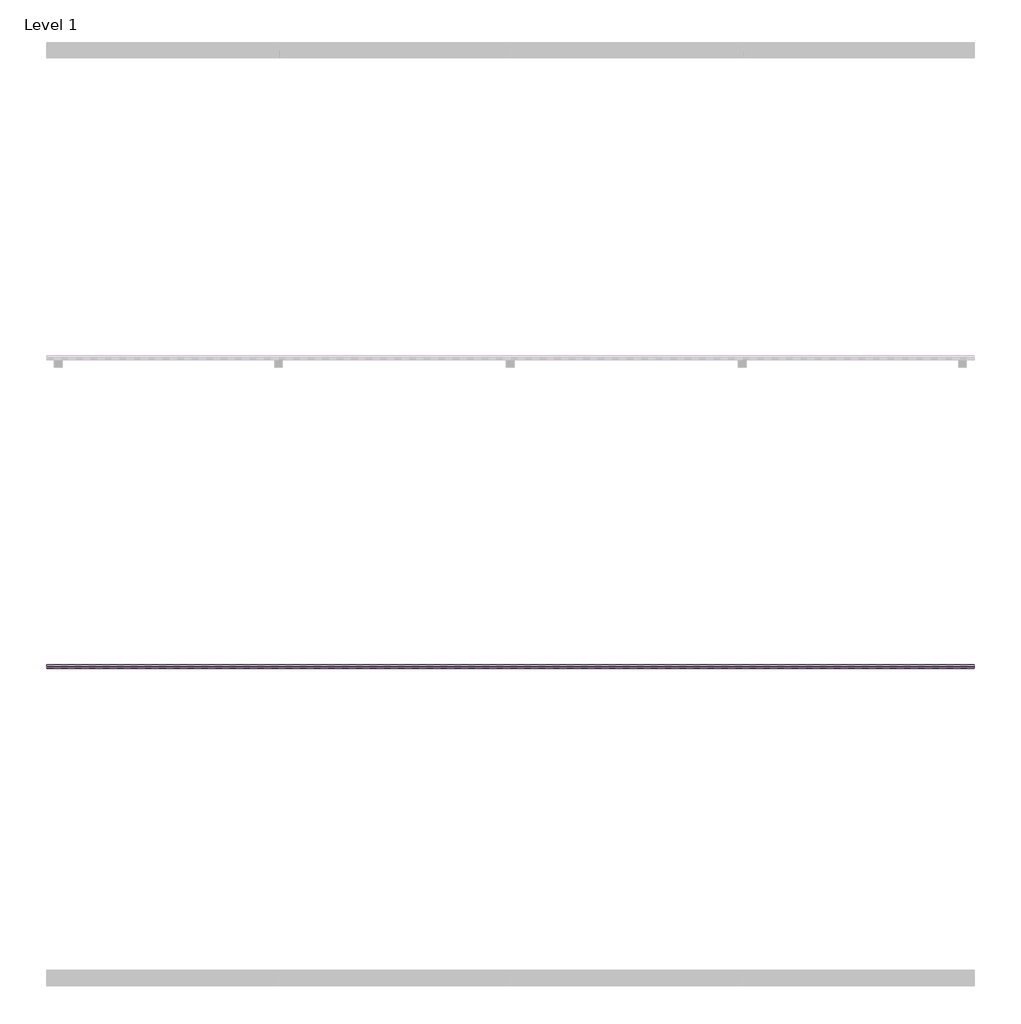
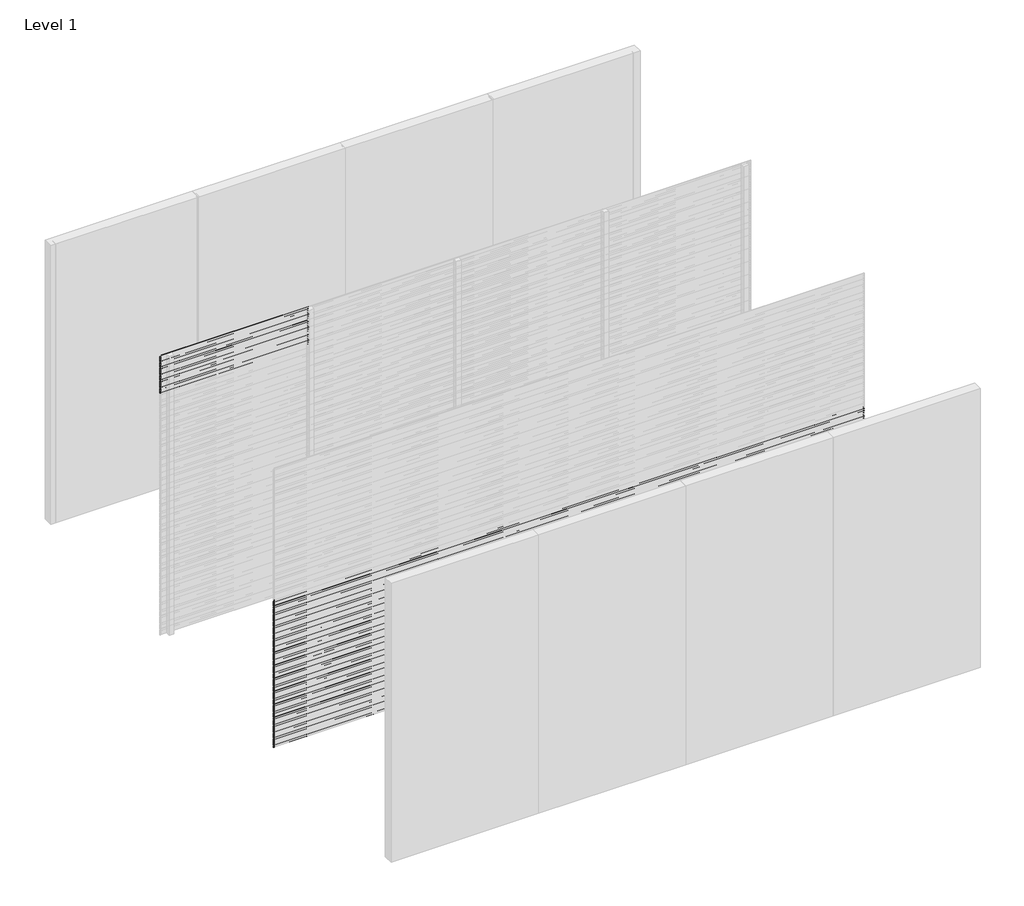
# One storey, part 10 of 31: 99 proxies.
"""IFC4 building model written with IfcOpenShell, lengths in millimetres."""

from ifc_helpers import new_model, si_unit, frame, origin, place, context, project, spatial, polyline, outline, extrude, element, save

model = new_model("IFC4")

# Units and contexts
model_context = context("Model", 3, world=origin())
ifc_project = project(units=[si_unit("LENGTHUNIT", "METRE", prefix="MILLI")], contexts=[model_context])

# Site, building, storey
site = spatial("IfcSite", under=ifc_project)
building = spatial("IfcBuilding", under=site)
storey = spatial("IfcBuildingStorey", under=building, Name="Level 1", Elevation=0.0)

# Proxies
placement = place(None, origin())
element("IfcBuildingElementProxy", 1, Name="Wall Sweeps", at=placement, inside=storey, context=model_context, shape_type="SweptSolid", body=[
    extrude(outline(polyline([(-11995.0, 3000.0), (-11995.0, 2988.942893), (-11976.0, 2973.0), (-11976.0, 2960.0), (-11997.0, 2977.6210923), (-11997.0, 3000.0), (-11995.0, 3000.0)])), frame((0.0, 0.0, 0.0), z_axis=(1.0, 0.0, 0.0), x_axis=(0.0, 1.0, 0.0)), (0.0, 0.0, 1.0), 1500.0),
])
element("IfcBuildingElementProxy", 2, Name="Wall Sweeps", at=placement, inside=storey, context=model_context, shape_type="SweptSolid", body=[
    extrude(outline(polyline([(-11995.0, 2980.0), (-11995.0, 2968.942893), (-11976.0, 2953.0), (-11976.0, 2940.0), (-11997.0, 2957.6210923), (-11997.0, 2980.0), (-11995.0, 2980.0)])), frame((0.0, 0.0, 0.0), z_axis=(1.0, 0.0, 0.0), x_axis=(0.0, 1.0, 0.0)), (0.0, 0.0, 1.0), 1500.0),
])
element("IfcBuildingElementProxy", 3, Name="Wall Sweeps", at=placement, inside=storey, context=model_context, shape_type="SweptSolid", body=[
    extrude(outline(polyline([(-11995.0, 2960.0), (-11995.0, 2948.942893), (-11976.0, 2933.0), (-11976.0, 2920.0), (-11997.0, 2937.6210923), (-11997.0, 2960.0), (-11995.0, 2960.0)])), frame((0.0, 0.0, 0.0), z_axis=(1.0, 0.0, 0.0), x_axis=(0.0, 1.0, 0.0)), (0.0, 0.0, 1.0), 1500.0),
])
element("IfcBuildingElementProxy", 4, Name="Wall Sweeps", at=placement, inside=storey, context=model_context, shape_type="SweptSolid", body=[
    extrude(outline(polyline([(-11995.0, 2940.0), (-11995.0, 2928.942893), (-11976.0, 2913.0), (-11976.0, 2900.0), (-11997.0, 2917.6210923), (-11997.0, 2940.0), (-11995.0, 2940.0)])), frame((0.0, 0.0, 0.0), z_axis=(1.0, 0.0, 0.0), x_axis=(0.0, 1.0, 0.0)), (0.0, 0.0, 1.0), 1500.0),
])
element("IfcBuildingElementProxy", 5, Name="Wall Sweeps", at=placement, inside=storey, context=model_context, shape_type="SweptSolid", body=[
    extrude(outline(polyline([(-11995.0, 2920.0), (-11995.0, 2908.942893), (-11976.0, 2893.0), (-11976.0, 2880.0), (-11997.0, 2897.6210923), (-11997.0, 2920.0), (-11995.0, 2920.0)])), frame((0.0, 0.0, 0.0), z_axis=(1.0, 0.0, 0.0), x_axis=(0.0, 1.0, 0.0)), (0.0, 0.0, 1.0), 1500.0),
])
element("IfcBuildingElementProxy", 6, Name="Wall Sweeps", at=placement, inside=storey, context=model_context, shape_type="SweptSolid", body=[
    extrude(outline(polyline([(-11995.0, 2900.0), (-11995.0, 2888.942893), (-11976.0, 2873.0), (-11976.0, 2860.0), (-11997.0, 2877.6210923), (-11997.0, 2900.0), (-11995.0, 2900.0)])), frame((0.0, 0.0, 0.0), z_axis=(1.0, 0.0, 0.0), x_axis=(0.0, 1.0, 0.0)), (0.0, 0.0, 1.0), 1500.0),
])
element("IfcBuildingElementProxy", 7, Name="Wall Sweeps", at=placement, inside=storey, context=model_context, shape_type="SweptSolid", body=[
    extrude(outline(polyline([(-11995.0, 2880.0), (-11995.0, 2868.942893), (-11976.0, 2853.0), (-11976.0, 2840.0), (-11997.0, 2857.6210923), (-11997.0, 2880.0), (-11995.0, 2880.0)])), frame((0.0, 0.0, 0.0), z_axis=(1.0, 0.0, 0.0), x_axis=(0.0, 1.0, 0.0)), (0.0, 0.0, 1.0), 1500.0),
])
element("IfcBuildingElementProxy", 8, Name="Wall Sweeps", at=placement, inside=storey, context=model_context, shape_type="SweptSolid", body=[
    extrude(outline(polyline([(-11995.0, 2860.0), (-11995.0, 2848.942893), (-11976.0, 2833.0), (-11976.0, 2820.0), (-11997.0, 2837.6210923), (-11997.0, 2860.0), (-11995.0, 2860.0)])), frame((0.0, 0.0, 0.0), z_axis=(1.0, 0.0, 0.0), x_axis=(0.0, 1.0, 0.0)), (0.0, 0.0, 1.0), 1500.0),
])
element("IfcBuildingElementProxy", 9, Name="Wall Sweeps", at=placement, inside=storey, context=model_context, shape_type="SweptSolid", body=[
    extrude(outline(polyline([(-11995.0, 2840.0), (-11995.0, 2828.942893), (-11976.0, 2813.0), (-11976.0, 2800.0), (-11997.0, 2817.6210923), (-11997.0, 2840.0), (-11995.0, 2840.0)])), frame((0.0, 0.0, 0.0), z_axis=(1.0, 0.0, 0.0), x_axis=(0.0, 1.0, 0.0)), (0.0, 0.0, 1.0), 1500.0),
])
element("IfcBuildingElementProxy", 10, Name="Wall Sweeps", at=placement, inside=storey, context=model_context, shape_type="SweptSolid", body=[
    extrude(outline(polyline([(-11995.0, 2820.0), (-11995.0, 2808.942893), (-11976.0, 2793.0), (-11976.0, 2780.0), (-11997.0, 2797.6210923), (-11997.0, 2820.0), (-11995.0, 2820.0)])), frame((0.0, 0.0, 0.0), z_axis=(1.0, 0.0, 0.0), x_axis=(0.0, 1.0, 0.0)), (0.0, 0.0, 1.0), 1500.0),
])
element("IfcBuildingElementProxy", 11, Name="Wall Sweeps", at=placement, inside=storey, context=model_context, shape_type="SweptSolid", body=[
    extrude(outline(polyline([(-11995.0, 2800.0), (-11995.0, 2788.942893), (-11976.0, 2773.0), (-11976.0, 2760.0), (-11997.0, 2777.6210923), (-11997.0, 2800.0), (-11995.0, 2800.0)])), frame((0.0, 0.0, 0.0), z_axis=(1.0, 0.0, 0.0), x_axis=(0.0, 1.0, 0.0)), (0.0, 0.0, 1.0), 1500.0),
])
element("IfcBuildingElementProxy", 12, Name="Wall Sweeps", at=placement, inside=storey, context=model_context, shape_type="SweptSolid", body=[
    extrude(outline(polyline([(-11995.0, 2780.0), (-11995.0, 2768.942893), (-11976.0, 2753.0), (-11976.0, 2740.0), (-11997.0, 2757.6210923), (-11997.0, 2780.0), (-11995.0, 2780.0)])), frame((0.0, 0.0, 0.0), z_axis=(1.0, 0.0, 0.0), x_axis=(0.0, 1.0, 0.0)), (0.0, 0.0, 1.0), 1500.0),
])
element("IfcBuildingElementProxy", 13, Name="Wall Sweeps", at=placement, inside=storey, context=model_context, shape_type="SweptSolid", body=[
    extrude(outline(polyline([(-11995.0, 2760.0), (-11995.0, 2748.942893), (-11976.0, 2733.0), (-11976.0, 2720.0), (-11997.0, 2737.6210923), (-11997.0, 2760.0), (-11995.0, 2760.0)])), frame((0.0, 0.0, 0.0), z_axis=(1.0, 0.0, 0.0), x_axis=(0.0, 1.0, 0.0)), (0.0, 0.0, 1.0), 1500.0),
])
element("IfcBuildingElementProxy", 14, Name="Wall Sweeps", at=placement, inside=storey, context=model_context, shape_type="SweptSolid", body=[
    extrude(outline(polyline([(-11995.0, 2740.0), (-11995.0, 2728.942893), (-11976.0, 2713.0), (-11976.0, 2700.0), (-11997.0, 2717.6210923), (-11997.0, 2740.0), (-11995.0, 2740.0)])), frame((0.0, 0.0, 0.0), z_axis=(1.0, 0.0, 0.0), x_axis=(0.0, 1.0, 0.0)), (0.0, 0.0, 1.0), 1500.0),
])
element("IfcBuildingElementProxy", 15, Name="Wall Sweeps", at=placement, inside=storey, context=model_context, shape_type="SweptSolid", body=[
    extrude(outline(polyline([(-11995.0, 2720.0), (-11995.0, 2708.942893), (-11976.0, 2693.0), (-11976.0, 2680.0), (-11997.0, 2697.6210923), (-11997.0, 2720.0), (-11995.0, 2720.0)])), frame((0.0, 0.0, 0.0), z_axis=(1.0, 0.0, 0.0), x_axis=(0.0, 1.0, 0.0)), (0.0, 0.0, 1.0), 1500.0),
])
element("IfcBuildingElementProxy", 16, Name="Wall Sweeps", at=placement, inside=storey, context=model_context, shape_type="SweptSolid", body=[
    extrude(outline(polyline([(-11995.0, 2700.0), (-11995.0, 2688.942893), (-11976.0, 2673.0), (-11976.0, 2660.0), (-11997.0, 2677.6210923), (-11997.0, 2700.0), (-11995.0, 2700.0)])), frame((0.0, 0.0, 0.0), z_axis=(1.0, 0.0, 0.0), x_axis=(0.0, 1.0, 0.0)), (0.0, 0.0, 1.0), 1500.0),
])
element("IfcBuildingElementProxy", 17, Name="Wall Sweeps", at=placement, inside=storey, context=model_context, shape_type="SweptSolid", body=[
    extrude(outline(polyline([(-11995.0, 2680.0), (-11995.0, 2668.942893), (-11976.0, 2653.0), (-11976.0, 2640.0), (-11997.0, 2657.6210923), (-11997.0, 2680.0), (-11995.0, 2680.0)])), frame((0.0, 0.0, 0.0), z_axis=(1.0, 0.0, 0.0), x_axis=(0.0, 1.0, 0.0)), (0.0, 0.0, 1.0), 1500.0),
])
element("IfcBuildingElementProxy", 18, Name="Wall Sweeps", at=placement, inside=storey, context=model_context, shape_type="SweptSolid", body=[
    extrude(outline(polyline([(-11995.0, 2660.0), (-11995.0, 2648.942893), (-11976.0, 2633.0), (-11976.0, 2620.0), (-11997.0, 2637.6210923), (-11997.0, 2660.0), (-11995.0, 2660.0)])), frame((0.0, 0.0, 0.0), z_axis=(1.0, 0.0, 0.0), x_axis=(0.0, 1.0, 0.0)), (0.0, 0.0, 1.0), 1500.0),
])
element("IfcBuildingElementProxy", 19, Name="Wall Sweeps", at=placement, inside=storey, context=model_context, shape_type="SweptSolid", body=[
    extrude(outline(polyline([(-11995.0, 2640.0), (-11995.0, 2628.942893), (-11976.0, 2613.0), (-11976.0, 2600.0), (-11997.0, 2617.6210923), (-11997.0, 2640.0), (-11995.0, 2640.0)])), frame((0.0, 0.0, 0.0), z_axis=(1.0, 0.0, 0.0), x_axis=(0.0, 1.0, 0.0)), (0.0, 0.0, 1.0), 1500.0),
])
element("IfcBuildingElementProxy", 20, Name="Wall Sweeps", at=placement, inside=storey, context=model_context, shape_type="SweptSolid", body=[
    extrude(outline(polyline([(-11995.0, 2620.0), (-11995.0, 2608.942893), (-11976.0, 2593.0), (-11976.0, 2580.0), (-11997.0, 2597.6210923), (-11997.0, 2620.0), (-11995.0, 2620.0)])), frame((0.0, 0.0, 0.0), z_axis=(1.0, 0.0, 0.0), x_axis=(0.0, 1.0, 0.0)), (0.0, 0.0, 1.0), 1500.0),
])
element("IfcBuildingElementProxy", 21, Name="Wall Sweeps", at=placement, inside=storey, context=model_context, shape_type="SweptSolid", body=[
    extrude(outline(polyline([(-13995.0, 1580.0), (-13995.0, 1568.942893), (-13976.0, 1553.0), (-13976.0, 1540.0), (-13997.0, 1557.6210923), (-13997.0, 1580.0), (-13995.0, 1580.0)])), frame((0.0, 0.0, 0.0), z_axis=(1.0, 0.0, 0.0), x_axis=(0.0, 1.0, 0.0)), (0.0, 0.0, 1.0), 6000.0),
])
element("IfcBuildingElementProxy", 22, Name="Wall Sweeps", at=placement, inside=storey, context=model_context, shape_type="SweptSolid", body=[
    extrude(outline(polyline([(-13995.0, 1560.0), (-13995.0, 1548.942893), (-13976.0, 1533.0), (-13976.0, 1520.0), (-13997.0, 1537.6210923), (-13997.0, 1560.0), (-13995.0, 1560.0)])), frame((0.0, 0.0, 0.0), z_axis=(1.0, 0.0, 0.0), x_axis=(0.0, 1.0, 0.0)), (0.0, 0.0, 1.0), 6000.0),
])
element("IfcBuildingElementProxy", 23, Name="Wall Sweeps", at=placement, inside=storey, context=model_context, shape_type="SweptSolid", body=[
    extrude(outline(polyline([(-13995.0, 1540.0), (-13995.0, 1528.942893), (-13976.0, 1513.0), (-13976.0, 1500.0), (-13997.0, 1517.6210923), (-13997.0, 1540.0), (-13995.0, 1540.0)])), frame((0.0, 0.0, 0.0), z_axis=(1.0, 0.0, 0.0), x_axis=(0.0, 1.0, 0.0)), (0.0, 0.0, 1.0), 6000.0),
])
element("IfcBuildingElementProxy", 24, Name="Wall Sweeps", at=placement, inside=storey, context=model_context, shape_type="SweptSolid", body=[
    extrude(outline(polyline([(-13995.0, 1520.0), (-13995.0, 1508.942893), (-13976.0, 1493.0), (-13976.0, 1480.0), (-13997.0, 1497.6210923), (-13997.0, 1520.0), (-13995.0, 1520.0)])), frame((0.0, 0.0, 0.0), z_axis=(1.0, 0.0, 0.0), x_axis=(0.0, 1.0, 0.0)), (0.0, 0.0, 1.0), 6000.0),
])
element("IfcBuildingElementProxy", 25, Name="Wall Sweeps", at=placement, inside=storey, context=model_context, shape_type="SweptSolid", body=[
    extrude(outline(polyline([(-13995.0, 1500.0), (-13995.0, 1488.942893), (-13976.0, 1473.0), (-13976.0, 1460.0), (-13997.0, 1477.6210923), (-13997.0, 1500.0), (-13995.0, 1500.0)])), frame((0.0, 0.0, 0.0), z_axis=(1.0, 0.0, 0.0), x_axis=(0.0, 1.0, 0.0)), (0.0, 0.0, 1.0), 6000.0),
])
element("IfcBuildingElementProxy", 26, Name="Wall Sweeps", at=placement, inside=storey, context=model_context, shape_type="SweptSolid", body=[
    extrude(outline(polyline([(-13995.0, 1480.0), (-13995.0, 1468.942893), (-13976.0, 1453.0), (-13976.0, 1440.0), (-13997.0, 1457.6210923), (-13997.0, 1480.0), (-13995.0, 1480.0)])), frame((0.0, 0.0, 0.0), z_axis=(1.0, 0.0, 0.0), x_axis=(0.0, 1.0, 0.0)), (0.0, 0.0, 1.0), 6000.0),
])
element("IfcBuildingElementProxy", 27, Name="Wall Sweeps", at=placement, inside=storey, context=model_context, shape_type="SweptSolid", body=[
    extrude(outline(polyline([(-13995.0, 1460.0), (-13995.0, 1448.942893), (-13976.0, 1433.0), (-13976.0, 1420.0), (-13997.0, 1437.6210923), (-13997.0, 1460.0), (-13995.0, 1460.0)])), frame((0.0, 0.0, 0.0), z_axis=(1.0, 0.0, 0.0), x_axis=(0.0, 1.0, 0.0)), (0.0, 0.0, 1.0), 6000.0),
])
element("IfcBuildingElementProxy", 28, Name="Wall Sweeps", at=placement, inside=storey, context=model_context, shape_type="SweptSolid", body=[
    extrude(outline(polyline([(-13995.0, 1440.0), (-13995.0, 1428.942893), (-13976.0, 1413.0), (-13976.0, 1400.0), (-13997.0, 1417.6210923), (-13997.0, 1440.0), (-13995.0, 1440.0)])), frame((0.0, 0.0, 0.0), z_axis=(1.0, 0.0, 0.0), x_axis=(0.0, 1.0, 0.0)), (0.0, 0.0, 1.0), 6000.0),
])
element("IfcBuildingElementProxy", 29, Name="Wall Sweeps", at=placement, inside=storey, context=model_context, shape_type="SweptSolid", body=[
    extrude(outline(polyline([(-13995.0, 1420.0), (-13995.0, 1408.942893), (-13976.0, 1393.0), (-13976.0, 1380.0), (-13997.0, 1397.6210923), (-13997.0, 1420.0), (-13995.0, 1420.0)])), frame((0.0, 0.0, 0.0), z_axis=(1.0, 0.0, 0.0), x_axis=(0.0, 1.0, 0.0)), (0.0, 0.0, 1.0), 6000.0),
])
element("IfcBuildingElementProxy", 30, Name="Wall Sweeps", at=placement, inside=storey, context=model_context, shape_type="SweptSolid", body=[
    extrude(outline(polyline([(-13995.0, 1400.0), (-13995.0, 1388.942893), (-13976.0, 1373.0), (-13976.0, 1360.0), (-13997.0, 1377.6210923), (-13997.0, 1400.0), (-13995.0, 1400.0)])), frame((0.0, 0.0, 0.0), z_axis=(1.0, 0.0, 0.0), x_axis=(0.0, 1.0, 0.0)), (0.0, 0.0, 1.0), 6000.0),
])
element("IfcBuildingElementProxy", 31, Name="Wall Sweeps", at=placement, inside=storey, context=model_context, shape_type="SweptSolid", body=[
    extrude(outline(polyline([(-13995.0, 1380.0), (-13995.0, 1368.942893), (-13976.0, 1353.0), (-13976.0, 1340.0), (-13997.0, 1357.6210923), (-13997.0, 1380.0), (-13995.0, 1380.0)])), frame((0.0, 0.0, 0.0), z_axis=(1.0, 0.0, 0.0), x_axis=(0.0, 1.0, 0.0)), (0.0, 0.0, 1.0), 6000.0),
])
element("IfcBuildingElementProxy", 32, Name="Wall Sweeps", at=placement, inside=storey, context=model_context, shape_type="SweptSolid", body=[
    extrude(outline(polyline([(-13995.0, 1360.0), (-13995.0, 1348.942893), (-13976.0, 1333.0), (-13976.0, 1320.0), (-13997.0, 1337.6210923), (-13997.0, 1360.0), (-13995.0, 1360.0)])), frame((0.0, 0.0, 0.0), z_axis=(1.0, 0.0, 0.0), x_axis=(0.0, 1.0, 0.0)), (0.0, 0.0, 1.0), 6000.0),
])
element("IfcBuildingElementProxy", 33, Name="Wall Sweeps", at=placement, inside=storey, context=model_context, shape_type="SweptSolid", body=[
    extrude(outline(polyline([(-13995.0, 1340.0), (-13995.0, 1328.942893), (-13976.0, 1313.0), (-13976.0, 1300.0), (-13997.0, 1317.6210923), (-13997.0, 1340.0), (-13995.0, 1340.0)])), frame((0.0, 0.0, 0.0), z_axis=(1.0, 0.0, 0.0), x_axis=(0.0, 1.0, 0.0)), (0.0, 0.0, 1.0), 6000.0),
])
element("IfcBuildingElementProxy", 34, Name="Wall Sweeps", at=placement, inside=storey, context=model_context, shape_type="SweptSolid", body=[
    extrude(outline(polyline([(-13995.0, 1320.0), (-13995.0, 1308.942893), (-13976.0, 1293.0), (-13976.0, 1280.0), (-13997.0, 1297.6210923), (-13997.0, 1320.0), (-13995.0, 1320.0)])), frame((0.0, 0.0, 0.0), z_axis=(1.0, 0.0, 0.0), x_axis=(0.0, 1.0, 0.0)), (0.0, 0.0, 1.0), 6000.0),
])
element("IfcBuildingElementProxy", 35, Name="Wall Sweeps", at=placement, inside=storey, context=model_context, shape_type="SweptSolid", body=[
    extrude(outline(polyline([(-13995.0, 1300.0), (-13995.0, 1288.942893), (-13976.0, 1273.0), (-13976.0, 1260.0), (-13997.0, 1277.6210923), (-13997.0, 1300.0), (-13995.0, 1300.0)])), frame((0.0, 0.0, 0.0), z_axis=(1.0, 0.0, 0.0), x_axis=(0.0, 1.0, 0.0)), (0.0, 0.0, 1.0), 6000.0),
])
element("IfcBuildingElementProxy", 36, Name="Wall Sweeps", at=placement, inside=storey, context=model_context, shape_type="SweptSolid", body=[
    extrude(outline(polyline([(-13995.0, 1280.0), (-13995.0, 1268.942893), (-13976.0, 1253.0), (-13976.0, 1240.0), (-13997.0, 1257.6210923), (-13997.0, 1280.0), (-13995.0, 1280.0)])), frame((0.0, 0.0, 0.0), z_axis=(1.0, 0.0, 0.0), x_axis=(0.0, 1.0, 0.0)), (0.0, 0.0, 1.0), 6000.0),
])
element("IfcBuildingElementProxy", 37, Name="Wall Sweeps", at=placement, inside=storey, context=model_context, shape_type="SweptSolid", body=[
    extrude(outline(polyline([(-13995.0, 1260.0), (-13995.0, 1248.942893), (-13976.0, 1233.0), (-13976.0, 1220.0), (-13997.0, 1237.6210923), (-13997.0, 1260.0), (-13995.0, 1260.0)])), frame((0.0, 0.0, 0.0), z_axis=(1.0, 0.0, 0.0), x_axis=(0.0, 1.0, 0.0)), (0.0, 0.0, 1.0), 6000.0),
])
element("IfcBuildingElementProxy", 38, Name="Wall Sweeps", at=placement, inside=storey, context=model_context, shape_type="SweptSolid", body=[
    extrude(outline(polyline([(-13995.0, 1240.0), (-13995.0, 1228.942893), (-13976.0, 1213.0), (-13976.0, 1200.0), (-13997.0, 1217.6210923), (-13997.0, 1240.0), (-13995.0, 1240.0)])), frame((0.0, 0.0, 0.0), z_axis=(1.0, 0.0, 0.0), x_axis=(0.0, 1.0, 0.0)), (0.0, 0.0, 1.0), 6000.0),
])
element("IfcBuildingElementProxy", 39, Name="Wall Sweeps", at=placement, inside=storey, context=model_context, shape_type="SweptSolid", body=[
    extrude(outline(polyline([(-13995.0, 1220.0), (-13995.0, 1208.942893), (-13976.0, 1193.0), (-13976.0, 1180.0), (-13997.0, 1197.6210923), (-13997.0, 1220.0), (-13995.0, 1220.0)])), frame((0.0, 0.0, 0.0), z_axis=(1.0, 0.0, 0.0), x_axis=(0.0, 1.0, 0.0)), (0.0, 0.0, 1.0), 6000.0),
])
element("IfcBuildingElementProxy", 40, Name="Wall Sweeps", at=placement, inside=storey, context=model_context, shape_type="SweptSolid", body=[
    extrude(outline(polyline([(-13995.0, 1200.0), (-13995.0, 1188.942893), (-13976.0, 1173.0), (-13976.0, 1160.0), (-13997.0, 1177.6210923), (-13997.0, 1200.0), (-13995.0, 1200.0)])), frame((0.0, 0.0, 0.0), z_axis=(1.0, 0.0, 0.0), x_axis=(0.0, 1.0, 0.0)), (0.0, 0.0, 1.0), 6000.0),
])
element("IfcBuildingElementProxy", 41, Name="Wall Sweeps", at=placement, inside=storey, context=model_context, shape_type="SweptSolid", body=[
    extrude(outline(polyline([(-13995.0, 1180.0), (-13995.0, 1168.942893), (-13976.0, 1153.0), (-13976.0, 1140.0), (-13997.0, 1157.6210923), (-13997.0, 1180.0), (-13995.0, 1180.0)])), frame((0.0, 0.0, 0.0), z_axis=(1.0, 0.0, 0.0), x_axis=(0.0, 1.0, 0.0)), (0.0, 0.0, 1.0), 6000.0),
])
element("IfcBuildingElementProxy", 42, Name="Wall Sweeps", at=placement, inside=storey, context=model_context, shape_type="SweptSolid", body=[
    extrude(outline(polyline([(-13995.0, 1160.0), (-13995.0, 1148.942893), (-13976.0, 1133.0), (-13976.0, 1120.0), (-13997.0, 1137.6210923), (-13997.0, 1160.0), (-13995.0, 1160.0)])), frame((0.0, 0.0, 0.0), z_axis=(1.0, 0.0, 0.0), x_axis=(0.0, 1.0, 0.0)), (0.0, 0.0, 1.0), 6000.0),
])
element("IfcBuildingElementProxy", 43, Name="Wall Sweeps", at=placement, inside=storey, context=model_context, shape_type="SweptSolid", body=[
    extrude(outline(polyline([(-13995.0, 1140.0), (-13995.0, 1128.942893), (-13976.0, 1113.0), (-13976.0, 1100.0), (-13997.0, 1117.6210923), (-13997.0, 1140.0), (-13995.0, 1140.0)])), frame((0.0, 0.0, 0.0), z_axis=(1.0, 0.0, 0.0), x_axis=(0.0, 1.0, 0.0)), (0.0, 0.0, 1.0), 6000.0),
])
element("IfcBuildingElementProxy", 44, Name="Wall Sweeps", at=placement, inside=storey, context=model_context, shape_type="SweptSolid", body=[
    extrude(outline(polyline([(-13995.0, 1120.0), (-13995.0, 1108.942893), (-13976.0, 1093.0), (-13976.0, 1080.0), (-13997.0, 1097.6210923), (-13997.0, 1120.0), (-13995.0, 1120.0)])), frame((0.0, 0.0, 0.0), z_axis=(1.0, 0.0, 0.0), x_axis=(0.0, 1.0, 0.0)), (0.0, 0.0, 1.0), 6000.0),
])
element("IfcBuildingElementProxy", 45, Name="Wall Sweeps", at=placement, inside=storey, context=model_context, shape_type="SweptSolid", body=[
    extrude(outline(polyline([(-13995.0, 1100.0), (-13995.0, 1088.942893), (-13976.0, 1073.0), (-13976.0, 1060.0), (-13997.0, 1077.6210923), (-13997.0, 1100.0), (-13995.0, 1100.0)])), frame((0.0, 0.0, 0.0), z_axis=(1.0, 0.0, 0.0), x_axis=(0.0, 1.0, 0.0)), (0.0, 0.0, 1.0), 6000.0),
])
element("IfcBuildingElementProxy", 46, Name="Wall Sweeps", at=placement, inside=storey, context=model_context, shape_type="SweptSolid", body=[
    extrude(outline(polyline([(-13995.0, 1080.0), (-13995.0, 1068.942893), (-13976.0, 1053.0), (-13976.0, 1040.0), (-13997.0, 1057.6210923), (-13997.0, 1080.0), (-13995.0, 1080.0)])), frame((0.0, 0.0, 0.0), z_axis=(1.0, 0.0, 0.0), x_axis=(0.0, 1.0, 0.0)), (0.0, 0.0, 1.0), 6000.0),
])
element("IfcBuildingElementProxy", 47, Name="Wall Sweeps", at=placement, inside=storey, context=model_context, shape_type="SweptSolid", body=[
    extrude(outline(polyline([(-13995.0, 1060.0), (-13995.0, 1048.942893), (-13976.0, 1033.0), (-13976.0, 1020.0), (-13997.0, 1037.6210923), (-13997.0, 1060.0), (-13995.0, 1060.0)])), frame((0.0, 0.0, 0.0), z_axis=(1.0, 0.0, 0.0), x_axis=(0.0, 1.0, 0.0)), (0.0, 0.0, 1.0), 6000.0),
])
element("IfcBuildingElementProxy", 48, Name="Wall Sweeps", at=placement, inside=storey, context=model_context, shape_type="SweptSolid", body=[
    extrude(outline(polyline([(-13995.0, 1040.0), (-13995.0, 1028.942893), (-13976.0, 1013.0), (-13976.0, 1000.0), (-13997.0, 1017.6210923), (-13997.0, 1040.0), (-13995.0, 1040.0)])), frame((0.0, 0.0, 0.0), z_axis=(1.0, 0.0, 0.0), x_axis=(0.0, 1.0, 0.0)), (0.0, 0.0, 1.0), 6000.0),
])
element("IfcBuildingElementProxy", 49, Name="Wall Sweeps", at=placement, inside=storey, context=model_context, shape_type="SweptSolid", body=[
    extrude(outline(polyline([(-13995.0, 1020.0), (-13995.0, 1008.942893), (-13976.0, 993.0), (-13976.0, 980.0), (-13997.0, 997.6210923), (-13997.0, 1020.0), (-13995.0, 1020.0)])), frame((0.0, 0.0, 0.0), z_axis=(1.0, 0.0, 0.0), x_axis=(0.0, 1.0, 0.0)), (0.0, 0.0, 1.0), 6000.0),
])
element("IfcBuildingElementProxy", 50, Name="Wall Sweeps", at=placement, inside=storey, context=model_context, shape_type="SweptSolid", body=[
    extrude(outline(polyline([(-13995.0, 1000.0), (-13995.0, 988.942893), (-13976.0, 973.0), (-13976.0, 960.0), (-13997.0, 977.6210923), (-13997.0, 1000.0), (-13995.0, 1000.0)])), frame((0.0, 0.0, 0.0), z_axis=(1.0, 0.0, 0.0), x_axis=(0.0, 1.0, 0.0)), (0.0, 0.0, 1.0), 6000.0),
])
element("IfcBuildingElementProxy", 51, Name="Wall Sweeps", at=placement, inside=storey, context=model_context, shape_type="SweptSolid", body=[
    extrude(outline(polyline([(-13995.0, 980.0), (-13995.0, 968.942893), (-13976.0, 953.0), (-13976.0, 940.0), (-13997.0, 957.6210923), (-13997.0, 980.0), (-13995.0, 980.0)])), frame((0.0, 0.0, 0.0), z_axis=(1.0, 0.0, 0.0), x_axis=(0.0, 1.0, 0.0)), (0.0, 0.0, 1.0), 6000.0),
])
element("IfcBuildingElementProxy", 52, Name="Wall Sweeps", at=placement, inside=storey, context=model_context, shape_type="SweptSolid", body=[
    extrude(outline(polyline([(-13995.0, 960.0), (-13995.0, 948.942893), (-13976.0, 933.0), (-13976.0, 920.0), (-13997.0, 937.6210923), (-13997.0, 960.0), (-13995.0, 960.0)])), frame((0.0, 0.0, 0.0), z_axis=(1.0, 0.0, 0.0), x_axis=(0.0, 1.0, 0.0)), (0.0, 0.0, 1.0), 6000.0),
])
element("IfcBuildingElementProxy", 53, Name="Wall Sweeps", at=placement, inside=storey, context=model_context, shape_type="SweptSolid", body=[
    extrude(outline(polyline([(-13995.0, 940.0), (-13995.0, 928.942893), (-13976.0, 913.0), (-13976.0, 900.0), (-13997.0, 917.6210923), (-13997.0, 940.0), (-13995.0, 940.0)])), frame((0.0, 0.0, 0.0), z_axis=(1.0, 0.0, 0.0), x_axis=(0.0, 1.0, 0.0)), (0.0, 0.0, 1.0), 6000.0),
])
element("IfcBuildingElementProxy", 54, Name="Wall Sweeps", at=placement, inside=storey, context=model_context, shape_type="SweptSolid", body=[
    extrude(outline(polyline([(-13995.0, 920.0), (-13995.0, 908.942893), (-13976.0, 893.0), (-13976.0, 880.0), (-13997.0, 897.6210923), (-13997.0, 920.0), (-13995.0, 920.0)])), frame((0.0, 0.0, 0.0), z_axis=(1.0, 0.0, 0.0), x_axis=(0.0, 1.0, 0.0)), (0.0, 0.0, 1.0), 6000.0),
])
element("IfcBuildingElementProxy", 55, Name="Wall Sweeps", at=placement, inside=storey, context=model_context, shape_type="SweptSolid", body=[
    extrude(outline(polyline([(-13995.0, 900.0), (-13995.0, 888.942893), (-13976.0, 873.0), (-13976.0, 860.0), (-13997.0, 877.6210923), (-13997.0, 900.0), (-13995.0, 900.0)])), frame((0.0, 0.0, 0.0), z_axis=(1.0, 0.0, 0.0), x_axis=(0.0, 1.0, 0.0)), (0.0, 0.0, 1.0), 6000.0),
])
element("IfcBuildingElementProxy", 56, Name="Wall Sweeps", at=placement, inside=storey, context=model_context, shape_type="SweptSolid", body=[
    extrude(outline(polyline([(-13995.0, 880.0), (-13995.0, 868.942893), (-13976.0, 853.0), (-13976.0, 840.0), (-13997.0, 857.6210923), (-13997.0, 880.0), (-13995.0, 880.0)])), frame((0.0, 0.0, 0.0), z_axis=(1.0, 0.0, 0.0), x_axis=(0.0, 1.0, 0.0)), (0.0, 0.0, 1.0), 6000.0),
])
element("IfcBuildingElementProxy", 57, Name="Wall Sweeps", at=placement, inside=storey, context=model_context, shape_type="SweptSolid", body=[
    extrude(outline(polyline([(-13995.0, 860.0), (-13995.0, 848.942893), (-13976.0, 833.0), (-13976.0, 820.0), (-13997.0, 837.6210923), (-13997.0, 860.0), (-13995.0, 860.0)])), frame((0.0, 0.0, 0.0), z_axis=(1.0, 0.0, 0.0), x_axis=(0.0, 1.0, 0.0)), (0.0, 0.0, 1.0), 6000.0),
])
element("IfcBuildingElementProxy", 58, Name="Wall Sweeps", at=placement, inside=storey, context=model_context, shape_type="SweptSolid", body=[
    extrude(outline(polyline([(-13995.0, 840.0), (-13995.0, 828.942893), (-13976.0, 813.0), (-13976.0, 800.0), (-13997.0, 817.6210923), (-13997.0, 840.0), (-13995.0, 840.0)])), frame((0.0, 0.0, 0.0), z_axis=(1.0, 0.0, 0.0), x_axis=(0.0, 1.0, 0.0)), (0.0, 0.0, 1.0), 6000.0),
])
element("IfcBuildingElementProxy", 59, Name="Wall Sweeps", at=placement, inside=storey, context=model_context, shape_type="SweptSolid", body=[
    extrude(outline(polyline([(-13995.0, 820.0), (-13995.0, 808.942893), (-13976.0, 793.0), (-13976.0, 780.0), (-13997.0, 797.6210923), (-13997.0, 820.0), (-13995.0, 820.0)])), frame((0.0, 0.0, 0.0), z_axis=(1.0, 0.0, 0.0), x_axis=(0.0, 1.0, 0.0)), (0.0, 0.0, 1.0), 6000.0),
])
element("IfcBuildingElementProxy", 60, Name="Wall Sweeps", at=placement, inside=storey, context=model_context, shape_type="SweptSolid", body=[
    extrude(outline(polyline([(-13995.0, 800.0), (-13995.0, 788.942893), (-13976.0, 773.0), (-13976.0, 760.0), (-13997.0, 777.6210923), (-13997.0, 800.0), (-13995.0, 800.0)])), frame((0.0, 0.0, 0.0), z_axis=(1.0, 0.0, 0.0), x_axis=(0.0, 1.0, 0.0)), (0.0, 0.0, 1.0), 6000.0),
])
element("IfcBuildingElementProxy", 61, Name="Wall Sweeps", at=placement, inside=storey, context=model_context, shape_type="SweptSolid", body=[
    extrude(outline(polyline([(-13995.0, 780.0), (-13995.0, 768.942893), (-13976.0, 753.0), (-13976.0, 740.0), (-13997.0, 757.6210923), (-13997.0, 780.0), (-13995.0, 780.0)])), frame((0.0, 0.0, 0.0), z_axis=(1.0, 0.0, 0.0), x_axis=(0.0, 1.0, 0.0)), (0.0, 0.0, 1.0), 6000.0),
])
element("IfcBuildingElementProxy", 62, Name="Wall Sweeps", at=placement, inside=storey, context=model_context, shape_type="SweptSolid", body=[
    extrude(outline(polyline([(-13995.0, 760.0), (-13995.0, 748.942893), (-13976.0, 733.0), (-13976.0, 720.0), (-13997.0, 737.6210923), (-13997.0, 760.0), (-13995.0, 760.0)])), frame((0.0, 0.0, 0.0), z_axis=(1.0, 0.0, 0.0), x_axis=(0.0, 1.0, 0.0)), (0.0, 0.0, 1.0), 6000.0),
])
element("IfcBuildingElementProxy", 63, Name="Wall Sweeps", at=placement, inside=storey, context=model_context, shape_type="SweptSolid", body=[
    extrude(outline(polyline([(-13995.0, 740.0), (-13995.0, 728.942893), (-13976.0, 713.0), (-13976.0, 700.0), (-13997.0, 717.6210923), (-13997.0, 740.0), (-13995.0, 740.0)])), frame((0.0, 0.0, 0.0), z_axis=(1.0, 0.0, 0.0), x_axis=(0.0, 1.0, 0.0)), (0.0, 0.0, 1.0), 6000.0),
])
element("IfcBuildingElementProxy", 64, Name="Wall Sweeps", at=placement, inside=storey, context=model_context, shape_type="SweptSolid", body=[
    extrude(outline(polyline([(-13995.0, 720.0), (-13995.0, 708.942893), (-13976.0, 693.0), (-13976.0, 680.0), (-13997.0, 697.6210923), (-13997.0, 720.0), (-13995.0, 720.0)])), frame((0.0, 0.0, 0.0), z_axis=(1.0, 0.0, 0.0), x_axis=(0.0, 1.0, 0.0)), (0.0, 0.0, 1.0), 6000.0),
])
element("IfcBuildingElementProxy", 65, Name="Wall Sweeps", at=placement, inside=storey, context=model_context, shape_type="SweptSolid", body=[
    extrude(outline(polyline([(-13995.0, 700.0), (-13995.0, 688.942893), (-13976.0, 673.0), (-13976.0, 660.0), (-13997.0, 677.6210923), (-13997.0, 700.0), (-13995.0, 700.0)])), frame((0.0, 0.0, 0.0), z_axis=(1.0, 0.0, 0.0), x_axis=(0.0, 1.0, 0.0)), (0.0, 0.0, 1.0), 6000.0),
])
element("IfcBuildingElementProxy", 66, Name="Wall Sweeps", at=placement, inside=storey, context=model_context, shape_type="SweptSolid", body=[
    extrude(outline(polyline([(-13995.0, 680.0), (-13995.0, 668.942893), (-13976.0, 653.0), (-13976.0, 640.0), (-13997.0, 657.6210923), (-13997.0, 680.0), (-13995.0, 680.0)])), frame((0.0, 0.0, 0.0), z_axis=(1.0, 0.0, 0.0), x_axis=(0.0, 1.0, 0.0)), (0.0, 0.0, 1.0), 6000.0),
])
element("IfcBuildingElementProxy", 67, Name="Wall Sweeps", at=placement, inside=storey, context=model_context, shape_type="SweptSolid", body=[
    extrude(outline(polyline([(-13995.0, 660.0), (-13995.0, 648.942893), (-13976.0, 633.0), (-13976.0, 620.0), (-13997.0, 637.6210923), (-13997.0, 660.0), (-13995.0, 660.0)])), frame((0.0, 0.0, 0.0), z_axis=(1.0, 0.0, 0.0), x_axis=(0.0, 1.0, 0.0)), (0.0, 0.0, 1.0), 6000.0),
])
element("IfcBuildingElementProxy", 68, Name="Wall Sweeps", at=placement, inside=storey, context=model_context, shape_type="SweptSolid", body=[
    extrude(outline(polyline([(-13995.0, 640.0), (-13995.0, 628.942893), (-13976.0, 613.0), (-13976.0, 600.0), (-13997.0, 617.6210923), (-13997.0, 640.0), (-13995.0, 640.0)])), frame((0.0, 0.0, 0.0), z_axis=(1.0, 0.0, 0.0), x_axis=(0.0, 1.0, 0.0)), (0.0, 0.0, 1.0), 6000.0),
])
element("IfcBuildingElementProxy", 69, Name="Wall Sweeps", at=placement, inside=storey, context=model_context, shape_type="SweptSolid", body=[
    extrude(outline(polyline([(-13995.0, 620.0), (-13995.0, 608.942893), (-13976.0, 593.0), (-13976.0, 580.0), (-13997.0, 597.6210923), (-13997.0, 620.0), (-13995.0, 620.0)])), frame((0.0, 0.0, 0.0), z_axis=(1.0, 0.0, 0.0), x_axis=(0.0, 1.0, 0.0)), (0.0, 0.0, 1.0), 6000.0),
])
element("IfcBuildingElementProxy", 70, Name="Wall Sweeps", at=placement, inside=storey, context=model_context, shape_type="SweptSolid", body=[
    extrude(outline(polyline([(-13995.0, 600.0), (-13995.0, 588.942893), (-13976.0, 573.0), (-13976.0, 560.0), (-13997.0, 577.6210923), (-13997.0, 600.0), (-13995.0, 600.0)])), frame((0.0, 0.0, 0.0), z_axis=(1.0, 0.0, 0.0), x_axis=(0.0, 1.0, 0.0)), (0.0, 0.0, 1.0), 6000.0),
])
element("IfcBuildingElementProxy", 71, Name="Wall Sweeps", at=placement, inside=storey, context=model_context, shape_type="SweptSolid", body=[
    extrude(outline(polyline([(-13995.0, 580.0), (-13995.0, 568.942893), (-13976.0, 553.0), (-13976.0, 540.0), (-13997.0, 557.6210923), (-13997.0, 580.0), (-13995.0, 580.0)])), frame((0.0, 0.0, 0.0), z_axis=(1.0, 0.0, 0.0), x_axis=(0.0, 1.0, 0.0)), (0.0, 0.0, 1.0), 6000.0),
])
element("IfcBuildingElementProxy", 72, Name="Wall Sweeps", at=placement, inside=storey, context=model_context, shape_type="SweptSolid", body=[
    extrude(outline(polyline([(-13995.0, 560.0), (-13995.0, 548.942893), (-13976.0, 533.0), (-13976.0, 520.0), (-13997.0, 537.6210923), (-13997.0, 560.0), (-13995.0, 560.0)])), frame((0.0, 0.0, 0.0), z_axis=(1.0, 0.0, 0.0), x_axis=(0.0, 1.0, 0.0)), (0.0, 0.0, 1.0), 6000.0),
])
element("IfcBuildingElementProxy", 73, Name="Wall Sweeps", at=placement, inside=storey, context=model_context, shape_type="SweptSolid", body=[
    extrude(outline(polyline([(-13995.0, 540.0), (-13995.0, 528.942893), (-13976.0, 513.0), (-13976.0, 500.0), (-13997.0, 517.6210923), (-13997.0, 540.0), (-13995.0, 540.0)])), frame((0.0, 0.0, 0.0), z_axis=(1.0, 0.0, 0.0), x_axis=(0.0, 1.0, 0.0)), (0.0, 0.0, 1.0), 6000.0),
])
element("IfcBuildingElementProxy", 74, Name="Wall Sweeps", at=placement, inside=storey, context=model_context, shape_type="SweptSolid", body=[
    extrude(outline(polyline([(-13995.0, 520.0), (-13995.0, 508.942893), (-13976.0, 493.0), (-13976.0, 480.0), (-13997.0, 497.6210923), (-13997.0, 520.0), (-13995.0, 520.0)])), frame((0.0, 0.0, 0.0), z_axis=(1.0, 0.0, 0.0), x_axis=(0.0, 1.0, 0.0)), (0.0, 0.0, 1.0), 6000.0),
])
element("IfcBuildingElementProxy", 75, Name="Wall Sweeps", at=placement, inside=storey, context=model_context, shape_type="SweptSolid", body=[
    extrude(outline(polyline([(-13995.0, 500.0), (-13995.0, 488.942893), (-13976.0, 473.0), (-13976.0, 460.0), (-13997.0, 477.6210923), (-13997.0, 500.0), (-13995.0, 500.0)])), frame((0.0, 0.0, 0.0), z_axis=(1.0, 0.0, 0.0), x_axis=(0.0, 1.0, 0.0)), (0.0, 0.0, 1.0), 6000.0),
])
element("IfcBuildingElementProxy", 76, Name="Wall Sweeps", at=placement, inside=storey, context=model_context, shape_type="SweptSolid", body=[
    extrude(outline(polyline([(-13995.0, 480.0), (-13995.0, 468.942893), (-13976.0, 453.0), (-13976.0, 440.0), (-13997.0, 457.6210923), (-13997.0, 480.0), (-13995.0, 480.0)])), frame((0.0, 0.0, 0.0), z_axis=(1.0, 0.0, 0.0), x_axis=(0.0, 1.0, 0.0)), (0.0, 0.0, 1.0), 6000.0),
])
element("IfcBuildingElementProxy", 77, Name="Wall Sweeps", at=placement, inside=storey, context=model_context, shape_type="SweptSolid", body=[
    extrude(outline(polyline([(-13995.0, 460.0), (-13995.0, 448.942893), (-13976.0, 433.0), (-13976.0, 420.0), (-13997.0, 437.6210923), (-13997.0, 460.0), (-13995.0, 460.0)])), frame((0.0, 0.0, 0.0), z_axis=(1.0, 0.0, 0.0), x_axis=(0.0, 1.0, 0.0)), (0.0, 0.0, 1.0), 6000.0),
])
element("IfcBuildingElementProxy", 78, Name="Wall Sweeps", at=placement, inside=storey, context=model_context, shape_type="SweptSolid", body=[
    extrude(outline(polyline([(-13995.0, 440.0), (-13995.0, 428.942893), (-13976.0, 413.0), (-13976.0, 400.0), (-13997.0, 417.6210923), (-13997.0, 440.0), (-13995.0, 440.0)])), frame((0.0, 0.0, 0.0), z_axis=(1.0, 0.0, 0.0), x_axis=(0.0, 1.0, 0.0)), (0.0, 0.0, 1.0), 6000.0),
])
element("IfcBuildingElementProxy", 79, Name="Wall Sweeps", at=placement, inside=storey, context=model_context, shape_type="SweptSolid", body=[
    extrude(outline(polyline([(-13995.0, 420.0), (-13995.0, 408.942893), (-13976.0, 393.0), (-13976.0, 380.0), (-13997.0, 397.6210923), (-13997.0, 420.0), (-13995.0, 420.0)])), frame((0.0, 0.0, 0.0), z_axis=(1.0, 0.0, 0.0), x_axis=(0.0, 1.0, 0.0)), (0.0, 0.0, 1.0), 6000.0),
])
element("IfcBuildingElementProxy", 80, Name="Wall Sweeps", at=placement, inside=storey, context=model_context, shape_type="SweptSolid", body=[
    extrude(outline(polyline([(-13995.0, 400.0), (-13995.0, 388.942893), (-13976.0, 373.0), (-13976.0, 360.0), (-13997.0, 377.6210923), (-13997.0, 400.0), (-13995.0, 400.0)])), frame((0.0, 0.0, 0.0), z_axis=(1.0, 0.0, 0.0), x_axis=(0.0, 1.0, 0.0)), (0.0, 0.0, 1.0), 6000.0),
])
element("IfcBuildingElementProxy", 81, Name="Wall Sweeps", at=placement, inside=storey, context=model_context, shape_type="SweptSolid", body=[
    extrude(outline(polyline([(-13995.0, 380.0), (-13995.0, 368.942893), (-13976.0, 353.0), (-13976.0, 340.0), (-13997.0, 357.6210923), (-13997.0, 380.0), (-13995.0, 380.0)])), frame((0.0, 0.0, 0.0), z_axis=(1.0, 0.0, 0.0), x_axis=(0.0, 1.0, 0.0)), (0.0, 0.0, 1.0), 6000.0),
])
element("IfcBuildingElementProxy", 82, Name="Wall Sweeps", at=placement, inside=storey, context=model_context, shape_type="SweptSolid", body=[
    extrude(outline(polyline([(-13995.0, 360.0), (-13995.0, 348.942893), (-13976.0, 333.0), (-13976.0, 320.0), (-13997.0, 337.6210923), (-13997.0, 360.0), (-13995.0, 360.0)])), frame((0.0, 0.0, 0.0), z_axis=(1.0, 0.0, 0.0), x_axis=(0.0, 1.0, 0.0)), (0.0, 0.0, 1.0), 6000.0),
])
element("IfcBuildingElementProxy", 83, Name="Wall Sweeps", at=placement, inside=storey, context=model_context, shape_type="SweptSolid", body=[
    extrude(outline(polyline([(-13995.0, 340.0), (-13995.0, 328.942893), (-13976.0, 313.0), (-13976.0, 300.0), (-13997.0, 317.6210923), (-13997.0, 340.0), (-13995.0, 340.0)])), frame((0.0, 0.0, 0.0), z_axis=(1.0, 0.0, 0.0), x_axis=(0.0, 1.0, 0.0)), (0.0, 0.0, 1.0), 6000.0),
])
element("IfcBuildingElementProxy", 84, Name="Wall Sweeps", at=placement, inside=storey, context=model_context, shape_type="SweptSolid", body=[
    extrude(outline(polyline([(-13995.0, 320.0), (-13995.0, 308.942893), (-13976.0, 293.0), (-13976.0, 280.0), (-13997.0, 297.6210923), (-13997.0, 320.0), (-13995.0, 320.0)])), frame((0.0, 0.0, 0.0), z_axis=(1.0, 0.0, 0.0), x_axis=(0.0, 1.0, 0.0)), (0.0, 0.0, 1.0), 6000.0),
])
element("IfcBuildingElementProxy", 85, Name="Wall Sweeps", at=placement, inside=storey, context=model_context, shape_type="SweptSolid", body=[
    extrude(outline(polyline([(-13995.0, 300.0), (-13995.0, 288.942893), (-13976.0, 273.0), (-13976.0, 260.0), (-13997.0, 277.6210923), (-13997.0, 300.0), (-13995.0, 300.0)])), frame((0.0, 0.0, 0.0), z_axis=(1.0, 0.0, 0.0), x_axis=(0.0, 1.0, 0.0)), (0.0, 0.0, 1.0), 6000.0),
])
element("IfcBuildingElementProxy", 86, Name="Wall Sweeps", at=placement, inside=storey, context=model_context, shape_type="SweptSolid", body=[
    extrude(outline(polyline([(-13995.0, 280.0), (-13995.0, 268.942893), (-13976.0, 253.0), (-13976.0, 240.0), (-13997.0, 257.6210923), (-13997.0, 280.0), (-13995.0, 280.0)])), frame((0.0, 0.0, 0.0), z_axis=(1.0, 0.0, 0.0), x_axis=(0.0, 1.0, 0.0)), (0.0, 0.0, 1.0), 6000.0),
])
element("IfcBuildingElementProxy", 87, Name="Wall Sweeps", at=placement, inside=storey, context=model_context, shape_type="SweptSolid", body=[
    extrude(outline(polyline([(-13995.0, 260.0), (-13995.0, 248.942893), (-13976.0, 233.0), (-13976.0, 220.0), (-13997.0, 237.6210923), (-13997.0, 260.0), (-13995.0, 260.0)])), frame((0.0, 0.0, 0.0), z_axis=(1.0, 0.0, 0.0), x_axis=(0.0, 1.0, 0.0)), (0.0, 0.0, 1.0), 6000.0),
])
element("IfcBuildingElementProxy", 88, Name="Wall Sweeps", at=placement, inside=storey, context=model_context, shape_type="SweptSolid", body=[
    extrude(outline(polyline([(-13995.0, 240.0), (-13995.0, 228.942893), (-13976.0, 213.0), (-13976.0, 200.0), (-13997.0, 217.6210923), (-13997.0, 240.0), (-13995.0, 240.0)])), frame((0.0, 0.0, 0.0), z_axis=(1.0, 0.0, 0.0), x_axis=(0.0, 1.0, 0.0)), (0.0, 0.0, 1.0), 6000.0),
])
element("IfcBuildingElementProxy", 89, Name="Wall Sweeps", at=placement, inside=storey, context=model_context, shape_type="SweptSolid", body=[
    extrude(outline(polyline([(-13995.0, 220.0), (-13995.0, 208.942893), (-13976.0, 193.0), (-13976.0, 180.0), (-13997.0, 197.6210923), (-13997.0, 220.0), (-13995.0, 220.0)])), frame((0.0, 0.0, 0.0), z_axis=(1.0, 0.0, 0.0), x_axis=(0.0, 1.0, 0.0)), (0.0, 0.0, 1.0), 6000.0),
])
element("IfcBuildingElementProxy", 90, Name="Wall Sweeps", at=placement, inside=storey, context=model_context, shape_type="SweptSolid", body=[
    extrude(outline(polyline([(-13995.0, 200.0), (-13995.0, 188.942893), (-13976.0, 173.0), (-13976.0, 160.0), (-13997.0, 177.6210923), (-13997.0, 200.0), (-13995.0, 200.0)])), frame((0.0, 0.0, 0.0), z_axis=(1.0, 0.0, 0.0), x_axis=(0.0, 1.0, 0.0)), (0.0, 0.0, 1.0), 6000.0),
])
element("IfcBuildingElementProxy", 91, Name="Wall Sweeps", at=placement, inside=storey, context=model_context, shape_type="SweptSolid", body=[
    extrude(outline(polyline([(-13995.0, 180.0), (-13995.0, 168.942893), (-13976.0, 153.0), (-13976.0, 140.0), (-13997.0, 157.6210923), (-13997.0, 180.0), (-13995.0, 180.0)])), frame((0.0, 0.0, 0.0), z_axis=(1.0, 0.0, 0.0), x_axis=(0.0, 1.0, 0.0)), (0.0, 0.0, 1.0), 6000.0),
])
element("IfcBuildingElementProxy", 92, Name="Wall Sweeps", at=placement, inside=storey, context=model_context, shape_type="SweptSolid", body=[
    extrude(outline(polyline([(-13995.0, 160.0), (-13995.0, 148.942893), (-13976.0, 133.0), (-13976.0, 120.0), (-13997.0, 137.6210923), (-13997.0, 160.0), (-13995.0, 160.0)])), frame((0.0, 0.0, 0.0), z_axis=(1.0, 0.0, 0.0), x_axis=(0.0, 1.0, 0.0)), (0.0, 0.0, 1.0), 6000.0),
])
element("IfcBuildingElementProxy", 93, Name="Wall Sweeps", at=placement, inside=storey, context=model_context, shape_type="SweptSolid", body=[
    extrude(outline(polyline([(-13995.0, 140.0), (-13995.0, 128.942893), (-13976.0, 113.0), (-13976.0, 100.0), (-13997.0, 117.6210923), (-13997.0, 140.0), (-13995.0, 140.0)])), frame((0.0, 0.0, 0.0), z_axis=(1.0, 0.0, 0.0), x_axis=(0.0, 1.0, 0.0)), (0.0, 0.0, 1.0), 6000.0),
])
element("IfcBuildingElementProxy", 94, Name="Wall Sweeps", at=placement, inside=storey, context=model_context, shape_type="SweptSolid", body=[
    extrude(outline(polyline([(-13995.0, 120.0), (-13995.0, 108.942893), (-13976.0, 93.0), (-13976.0, 80.0), (-13997.0, 97.6210923), (-13997.0, 120.0), (-13995.0, 120.0)])), frame((0.0, 0.0, 0.0), z_axis=(1.0, 0.0, 0.0), x_axis=(0.0, 1.0, 0.0)), (0.0, 0.0, 1.0), 6000.0),
])
element("IfcBuildingElementProxy", 95, Name="Wall Sweeps", at=placement, inside=storey, context=model_context, shape_type="SweptSolid", body=[
    extrude(outline(polyline([(-13995.0, 100.0), (-13995.0, 88.942893), (-13976.0, 73.0), (-13976.0, 60.0), (-13997.0, 77.6210923), (-13997.0, 100.0), (-13995.0, 100.0)])), frame((0.0, 0.0, 0.0), z_axis=(1.0, 0.0, 0.0), x_axis=(0.0, 1.0, 0.0)), (0.0, 0.0, 1.0), 6000.0),
])
element("IfcBuildingElementProxy", 96, Name="Wall Sweeps", at=placement, inside=storey, context=model_context, shape_type="SweptSolid", body=[
    extrude(outline(polyline([(-13995.0, 80.0), (-13995.0, 68.942893), (-13976.0, 53.0), (-13976.0, 40.0), (-13997.0, 57.6210923), (-13997.0, 80.0), (-13995.0, 80.0)])), frame((0.0, 0.0, 0.0), z_axis=(1.0, 0.0, 0.0), x_axis=(0.0, 1.0, 0.0)), (0.0, 0.0, 1.0), 6000.0),
])
element("IfcBuildingElementProxy", 97, Name="Wall Sweeps", at=placement, inside=storey, context=model_context, shape_type="SweptSolid", body=[
    extrude(outline(polyline([(-13995.0, 60.0), (-13995.0, 48.942893), (-13976.0, 33.0), (-13976.0, 20.0), (-13997.0, 37.6210923), (-13997.0, 60.0), (-13995.0, 60.0)])), frame((0.0, 0.0, 0.0), z_axis=(1.0, 0.0, 0.0), x_axis=(0.0, 1.0, 0.0)), (0.0, 0.0, 1.0), 6000.0),
])
element("IfcBuildingElementProxy", 98, Name="Wall Sweeps", at=placement, inside=storey, context=model_context, shape_type="SweptSolid", body=[
    extrude(outline(polyline([(-13995.0, 40.0), (-13995.0, 28.942893), (-13976.0, 13.0), (-13976.0, 0.0), (-13997.0, 17.6210923), (-13997.0, 40.0), (-13995.0, 40.0)])), frame((0.0, 0.0, 0.0), z_axis=(1.0, 0.0, 0.0), x_axis=(0.0, 1.0, 0.0)), (0.0, 0.0, 1.0), 6000.0),
])
element("IfcBuildingElementProxy", 99, Name="Wall Sweeps", at=placement, inside=storey, context=model_context, shape_type="SweptSolid", body=[
    extrude(outline(polyline([(-13995.0, 20.0), (-13995.0, 8.942893), (-13976.0, -7.0), (-13976.0, -20.0), (-13997.0, -2.3789077), (-13997.0, 20.0), (-13995.0, 20.0)])), frame((0.0, 0.0, 0.0), z_axis=(1.0, 0.0, 0.0), x_axis=(0.0, 1.0, 0.0)), (0.0, 0.0, 1.0), 6000.0),
])

save(model, "model.ifc")
